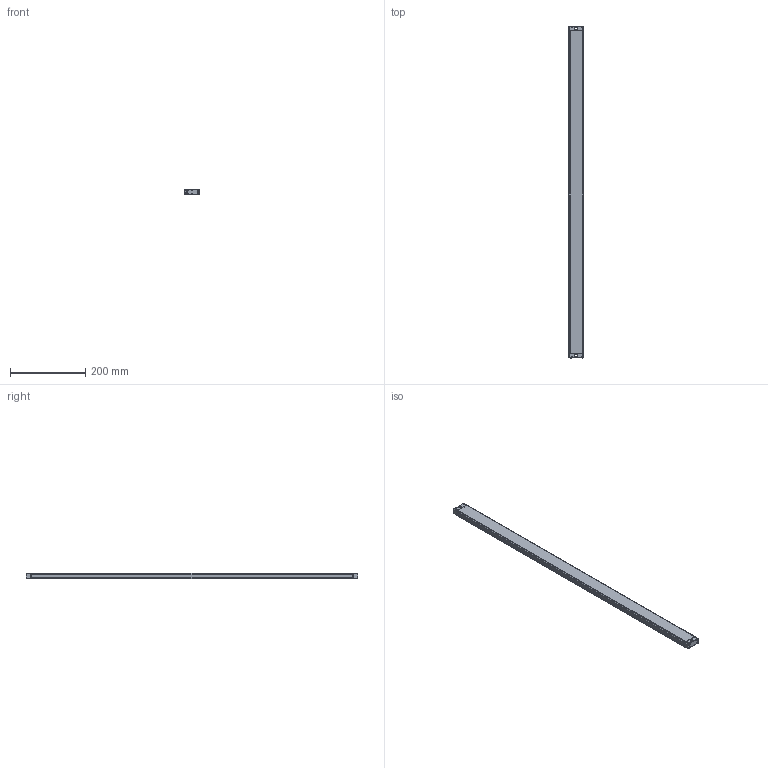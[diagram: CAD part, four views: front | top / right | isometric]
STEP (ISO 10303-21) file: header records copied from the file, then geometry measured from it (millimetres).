
FILE_DESCRIPTION((''),'2;1');
FILE_NAME('EB15--3610_ASM','2021-07-22T11:29:20',('18720616900'),(''),'CREO PARAMETRIC BY PTC INC, 2019010','CREO PARAMETRIC BY PTC INC, 2019010','');
FILE_SCHEMA(('CONFIG_CONTROL_DESIGN'));
Length unit declared in the file: millimetre
Products named in the file (6): EB15-00; EB15-000; EB15-0003; EB15-0004; ST-3-12; EB15--3610_ASM
Assembly tree (12 placements, depth 2):
  EB15--3610_ASM
    EB15-00
    EB15-000
    EB15-0003
    EB15-0004
    ST-3-12  x8
Bounding box: 39.15 x 885 x 15.8 mm (x, y, z)
Volume: 531818.3 mm3; surface area: 129694.1 mm2
Topology: 12 solids, 12 shells, 827 faces, 2188 edges, 1368 vertices
Faces by surface type: plane 242, bspline 188, cone 176, cylinder 165, torus 40, sphere 16
Entity records: 16044 total; most frequent: CARTESIAN_POINT 7660, ORIENTED_EDGE 1804, DIRECTION 1603, EDGE_CURVE 902, AXIS2_PLACEMENT_3D 577, VERTEX_POINT 563, VECTOR 449, LINE 449
